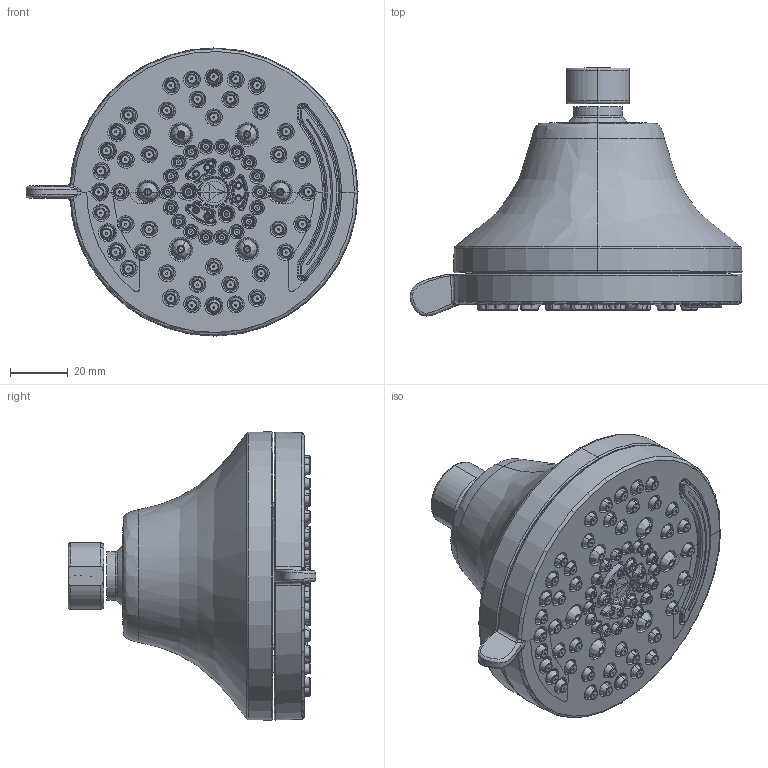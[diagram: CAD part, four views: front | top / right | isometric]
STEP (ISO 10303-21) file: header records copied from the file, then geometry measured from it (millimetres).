
FILE_DESCRIPTION (( 'STEP AP214' ), '1' );
FILE_NAME ('592SH7.STEP', '2025-01-07T08:58:39', ( '' ), ( '' ), 'SwSTEP 2.0', 'SolidWorks 2023', '' );
FILE_SCHEMA (( 'AUTOMOTIVE_DESIGN' ));
Products named in the file (1): 592SH7
Bounding box: 115.21 x 86.05 x 99.99 mm (x, y, z)
Surface area: 46332 mm2 (no closed solid volume)
Topology: 0 solids, 99 shells, 1444 faces, 6034 edges, 4676 vertices
Faces by surface type: bspline 587, cone 495, plane 232, torus 73, cylinder 37, sphere 20
Entity records: 213166 total; most frequent: CARTESIAN_POINT 170874, ORIENTED_EDGE 8716, EDGE_CURVE 6029, DIRECTION 6009, VERTEX_POINT 4673, B_SPLINE_CURVE_WITH_KNOTS 2600, VECTOR 2495, LINE 2495
